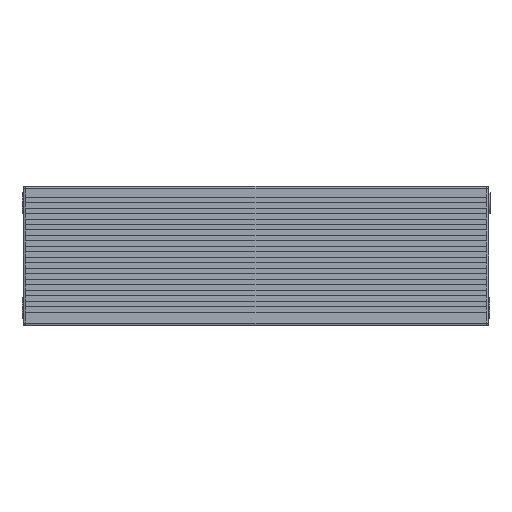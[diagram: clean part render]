
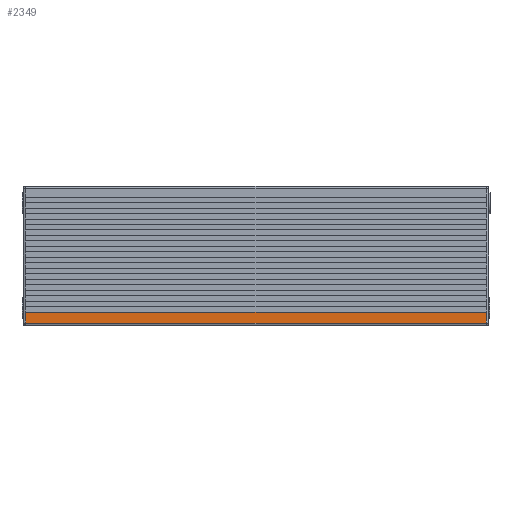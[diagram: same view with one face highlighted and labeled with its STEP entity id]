
A CAD part, front view. The second image highlights one B-rep face of the part: STEP entity #2349.
In plain terms, the highlighted planar face has unit normal (0, -1, 0).
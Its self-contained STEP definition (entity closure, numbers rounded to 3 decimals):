
#2310=CARTESIAN_POINT('',(40.,-12.75,-12.75));
#2311=DIRECTION('',(0.,-1.,0.));
#2312=DIRECTION('',(0.,0.,-1.));
#2313=AXIS2_PLACEMENT_3D('',#2310,#2311,#2312);
#2314=PLANE('',#2313);
#2315=CARTESIAN_POINT('',(42.,-12.75,-12.25));
#2316=VERTEX_POINT('',#2315);
#2317=CARTESIAN_POINT('',(42.,-12.75,-10.25));
#2318=VERTEX_POINT('',#2317);
#2319=CARTESIAN_POINT('',(42.,-12.75,-12.25));
#2320=DIRECTION('',(0.,0.,1.));
#2321=VECTOR('',#2320,2.);
#2322=LINE('',#2319,#2321);
#2323=EDGE_CURVE('',#2316,#2318,#2322,.T.);
#2324=ORIENTED_EDGE('',*,*,#2323,.T.);
#2325=CARTESIAN_POINT('',(-42.,-12.75,-10.25));
#2326=VERTEX_POINT('',#2325);
#2327=CARTESIAN_POINT('',(42.,-12.75,-10.25));
#2328=DIRECTION('',(-1.,0.,-0.));
#2329=VECTOR('',#2328,84.);
#2330=LINE('',#2327,#2329);
#2331=EDGE_CURVE('',#2318,#2326,#2330,.T.);
#2332=ORIENTED_EDGE('',*,*,#2331,.T.);
#2333=CARTESIAN_POINT('',(-42.,-12.75,-12.25));
#2334=VERTEX_POINT('',#2333);
#2335=CARTESIAN_POINT('',(-42.,-12.75,-12.25));
#2336=DIRECTION('',(0.,0.,1.));
#2337=VECTOR('',#2336,2.);
#2338=LINE('',#2335,#2337);
#2339=EDGE_CURVE('',#2334,#2326,#2338,.T.);
#2340=ORIENTED_EDGE('',*,*,#2339,.F.);
#2341=CARTESIAN_POINT('',(-42.,-12.75,-12.25));
#2342=DIRECTION('',(1.,-0.,-0.));
#2343=VECTOR('',#2342,84.);
#2344=LINE('',#2341,#2343);
#2345=EDGE_CURVE('',#2334,#2316,#2344,.T.);
#2346=ORIENTED_EDGE('',*,*,#2345,.T.);
#2347=EDGE_LOOP('',(#2324,#2332,#2340,#2346));
#2348=FACE_BOUND('',#2347,.T.);
#2349=ADVANCED_FACE('',(#2348),#2314,.T.);
